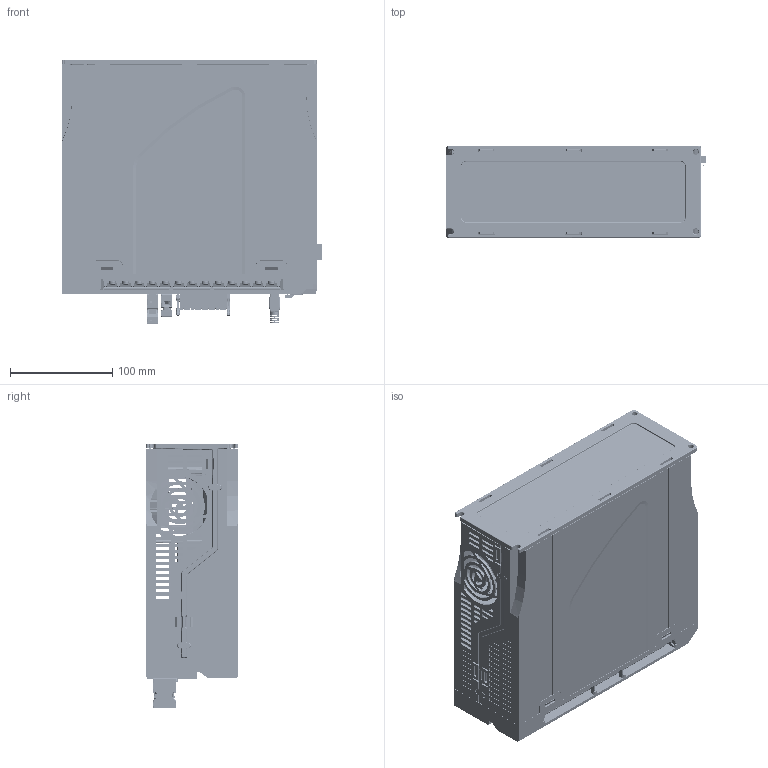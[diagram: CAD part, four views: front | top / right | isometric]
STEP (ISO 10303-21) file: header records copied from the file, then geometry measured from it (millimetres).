
FILE_DESCRIPTION((''),'2;1');
FILE_NAME('PRT0003','2023-08-16T16:00:52',('ms27526'),(''),'CREO PARAMETRIC BY PTC INC, 2018100','CREO PARAMETRIC BY PTC INC, 2018100','');
FILE_SCHEMA(('CONFIG_CONTROL_DESIGN'));
Products named in the file (1): PRT0003
Bounding box: 255.23 x 90.1 x 259.67 mm (x, y, z)
Volume: 556225 mm3; surface area: 729463.5 mm2
Topology: 8 solids, 194 shells, 21264 faces, 57508 edges, 36084 vertices
Faces by surface type: plane 11679, cylinder 5899, bspline 1309, cone 1299, torus 663, sphere 337, extrusion 78
Entity records: 755606 total; most frequent: CARTESIAN_POINT 233205, ORIENTED_EDGE 112213, DIRECTION 102023, EDGE_CURVE 56970, VECTOR 38061, LINE 37983, VERTEX_POINT 36089, AXIS2_PLACEMENT_3D 31981
